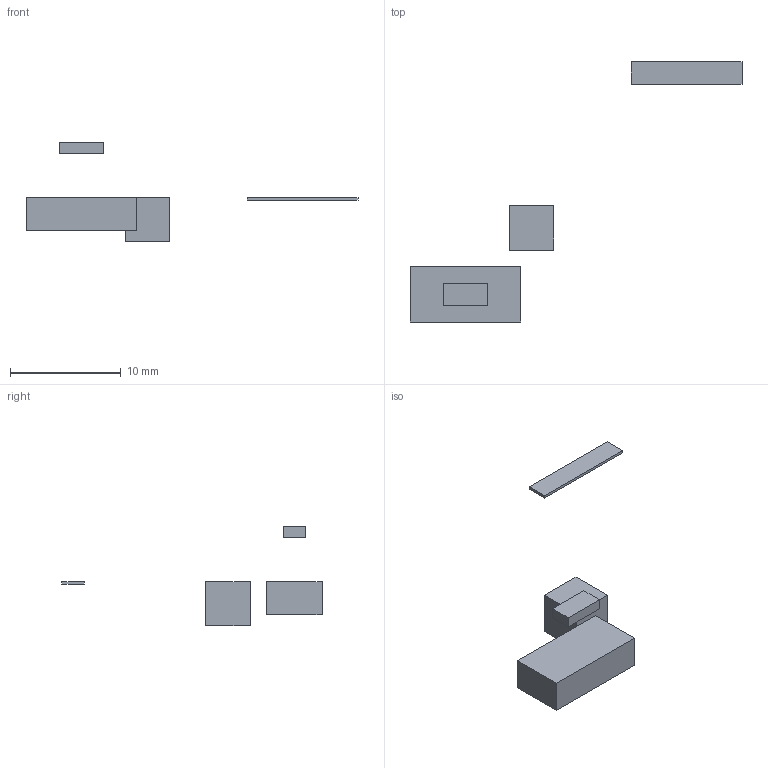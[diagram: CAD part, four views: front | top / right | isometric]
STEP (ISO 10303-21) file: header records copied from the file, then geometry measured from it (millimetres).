
FILE_DESCRIPTION(/* description */ ('Empty Shape Representation Sample File'),/* implementation_level */ '2;1');
FILE_NAME(/* name */ 'output_file',/* time_stamp */ '2012-10-24T17:38:43-04:00',/* author */ (''),/* organization */ (''),/* preprocessor_version */ 'ST-DEVELOPER v15',/* originating_system */ 'Geometry Demo',/* authorisation */ '');
FILE_SCHEMA (('AUTOMOTIVE_DESIGN'));
Length unit declared in the file: millimetre
Products named in the file (1): 1234-K789
Bounding box: 30 x 23.5 x 9 mm (x, y, z)
Volume: 227 mm3; surface area: 360 mm2
Topology: 4 solids, 4 shells, 24 faces, 48 edges, 32 vertices
Faces by surface type: plane 24
Entity records: 657 total; most frequent: ORIENTED_EDGE 96, DIRECTION 96, CARTESIAN_POINT 57, EDGE_CURVE 48, VECTOR 48, LINE 48, VERTEX_POINT 32, AXIS2_PLACEMENT_3D 25
